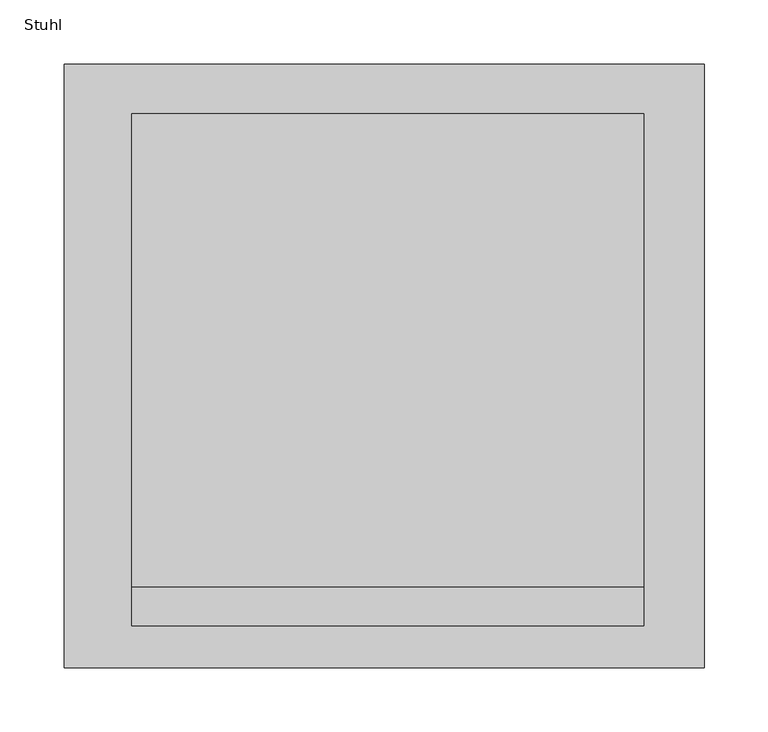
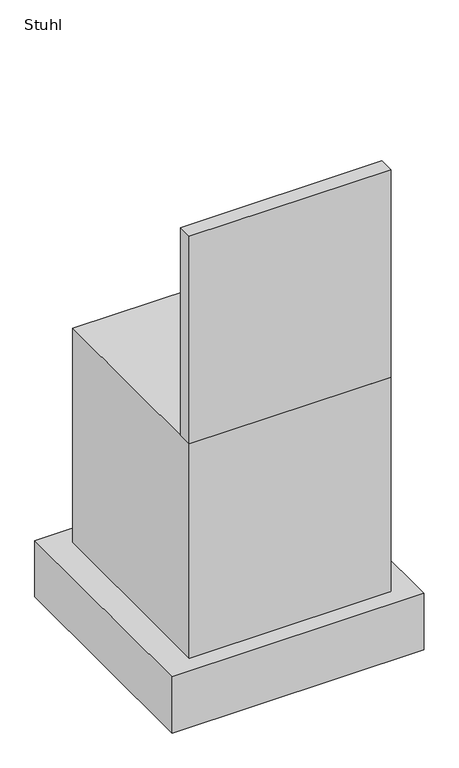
"""IFC4 building model written with IfcOpenShell, lengths in millimetres: furniture geometry, Fixierte Ausstattung Stuhl : Stuhl."""

from ifc_helpers import new_model, si_unit, frame, origin, origin_with_axes, place, context, project, spatial, polyline, outline, extrude, source, transform, mapped, element, save


def stuhl_560c61f8(model_context):
    return source(origin(), model_context, "Body", "SweptSolid", [
        extrude(outline(polyline([(246.8892503, 238.8203976), (246.8892503, -232.8763365), (-253.1107497, -232.8763365), (-253.1107497, 238.8203976), (246.8892503, 238.8203976)])), frame((0.0, 0.0, -117.7668608), z_axis=(0.0, 0.0, 1.0), x_axis=(1.0, 0.0, 0.0)), (0.0, 0.0, 1.0), 117.7668608),
        extrude(outline(polyline([(200.0, -200.0), (-200.0, -200.0), (-200.0, -170.0), (200.0, -170.0), (200.0, -200.0)])), frame((0.0, 0.0, 450.0), z_axis=(0.0, 0.0, 1.0), x_axis=(1.0, 0.0, 0.0)), (0.0, 0.0, 1.0), 435.4014448),
        extrude(outline(polyline([(200.0, -200.0), (-200.0, -200.0), (-200.0, 200.0), (200.0, 200.0), (200.0, -200.0)])), origin_with_axes(), (0.0, 0.0, 1.0), 450.0),
    ])


if __name__ == "__main__":
    model = new_model("IFC4")
    model_context = context("Model", 3, world=origin())
    ifc_project = project(units=[si_unit("LENGTHUNIT", "METRE", prefix="MILLI")], contexts=[model_context])
    site = spatial("IfcSite", under=ifc_project)
    building = spatial("IfcBuilding", under=site)
    placement = place(None, origin())
    stuhl_shape = stuhl_560c61f8(model_context)
    element("IfcFurniture", 1, ObjectType="Fixierte Ausstattung Stuhl : Stuhl", at=placement, inside=building, context=model_context, shape_type="MappedRepresentation", body=[
        mapped(stuhl_shape, transform((0.0, 0.0, 0.0), x_axis=(1.0, 0.0, 0.0), y_axis=(0.0, 1.0, 0.0), z_axis=(0.0, 0.0, 1.0))),
    ])
    save(model, "model.ifc")
